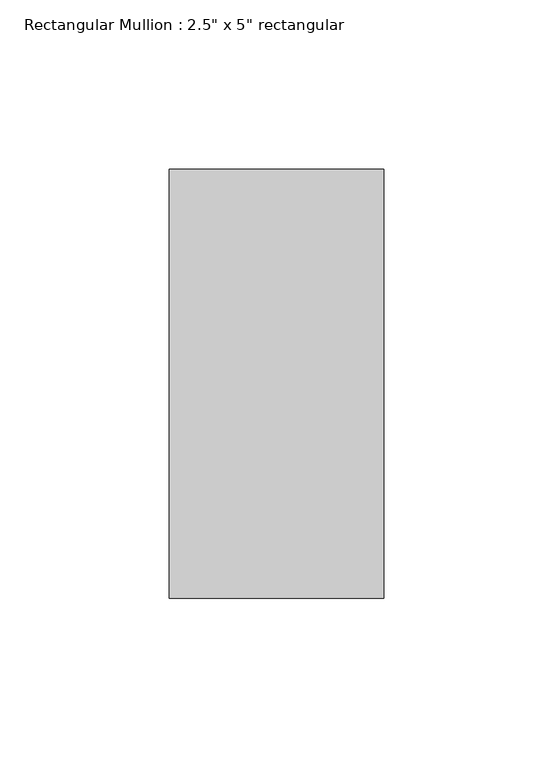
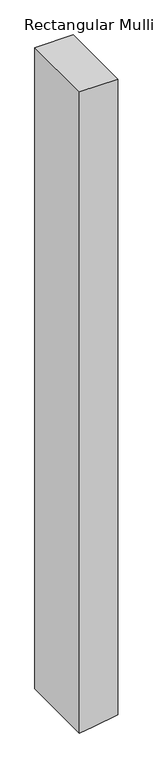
"""IFC4 building model written with IfcOpenShell, lengths in millimetres: member geometry."""

import ifcopenshell
import ifcopenshell.guid

model = None  # the IFC model being written
_history = None  # IfcOwnerHistory: only IFC2X3 demands one
_inside = {}  # id of a spatial element -> (the spatial element, [elements in it])
_under = {}  # id of a project, library or spatial element -> (it, [spatial elements below it])
_declared = {}  # id of a project -> (the project, [libraries it declares])
_typed = {}  # id of a type object -> (the type object, [elements of that type])
_made_of = {}  # id of a material, layer set ... -> (it, [elements and type objects made of it])


def new_model(schema):
    """Start an empty IFC model of exactly this schema.

    Asked for "IFC4X3", IfcOpenShell would pick the latest addendum, in which some entities
    have other attributes; the version numbers below select the first issue.
    IFC2X3 requires an IfcOwnerHistory on every rooted entity: one is made here for all.
    """
    global model, _history
    if schema == "IFC4X3":
        model = ifcopenshell.file(schema_version=(4, 3, 0, 0))
    else:
        model = ifcopenshell.file(schema=schema)
    _inside.clear()
    _under.clear()
    _declared.clear()
    _typed.clear()
    _made_of.clear()
    _history = None
    if model.schema == "IFC2X3":
        org = make("IfcOrganization", Name="unknown")
        user = make(
            "IfcPersonAndOrganization",
            ThePerson=make("IfcPerson", FamilyName="unknown"),
            TheOrganization=org,
        )
        app = make(
            "IfcApplication",
            ApplicationDeveloper=org,
            Version="unknown",
            ApplicationFullName="unknown",
            ApplicationIdentifier="unknown",
        )
        _history = make(
            "IfcOwnerHistory",
            OwningUser=user,
            OwningApplication=app,
            ChangeAction="ADDED",
            CreationDate=0,
        )
    return model


def make(cls, **values):
    """One entity of the class cls with the attributes given. An attribute that is None is left unset."""
    return model.create_entity(
        cls, **{name: value for name, value in values.items() if value is not None}
    )


def rooted(cls, **values):
    """An entity with a GlobalId (a new one), such as an element, a storey or a relation."""
    return make(cls, GlobalId=ifcopenshell.guid.new(), OwnerHistory=_history, **values)


def si_unit(unit_type, name, prefix=None):
    """IfcSIUnit, for example si_unit("LENGTHUNIT", "METRE", prefix="MILLI")."""
    return make("IfcSIUnit", UnitType=unit_type, Prefix=prefix, Name=name)


def assignment(units):
    """IfcUnitAssignment: the units of a project."""
    return None if units is None else make("IfcUnitAssignment", Units=units)


def point(xyz):
    """IfcCartesianPoint."""
    return None if xyz is None else make("IfcCartesianPoint", Coordinates=xyz)


def direction(xyz):
    """IfcDirection."""
    return None if xyz is None else make("IfcDirection", DirectionRatios=xyz)


def frame(location, z_axis=None, x_axis=None):
    """IfcAxis2Placement3D, a coordinate frame: its origin and axes. An axis left out is left unset."""
    return make(
        "IfcAxis2Placement3D",
        Location=point(location),
        Axis=direction(z_axis),
        RefDirection=direction(x_axis),
    )


def frame_2d(location, x_axis=None):
    """IfcAxis2Placement2D, a coordinate frame in the plane: its origin and x axis."""
    return make(
        "IfcAxis2Placement2D", Location=point(location), RefDirection=direction(x_axis)
    )


def origin():
    """The frame at (0, 0, 0) with its axes left unset."""
    return frame((0.0, 0.0, 0.0))


def place(relative_to, where):
    """IfcLocalPlacement: puts the frame where relative to a parent placement (None: the world)."""
    return make(
        "IfcLocalPlacement", PlacementRelTo=relative_to, RelativePlacement=where
    )


def context(
    kind, dimensions, precision=None, world=None, true_north=None, identifier=None
):
    """IfcGeometricRepresentationContext, for example the 3D "Model" context."""
    return make(
        "IfcGeometricRepresentationContext",
        ContextIdentifier=identifier,
        ContextType=kind,
        CoordinateSpaceDimension=dimensions,
        Precision=precision,
        WorldCoordinateSystem=world,
        TrueNorth=true_north,
    )


def project(units=None, contexts=None):
    """IfcProject with its units and contexts."""
    return rooted(
        "IfcProject",
        Name="project",
        RepresentationContexts=contexts,
        UnitsInContext=assignment(units),
    )


def spatial(cls, under=None, at=None, **own):
    """A site, building, storey or space (cls), placed at a placement, below another one or the project."""
    s = rooted(cls, ObjectPlacement=at, **own)
    if under is not None:
        _under.setdefault(under.id(), (under, []))[1].append(s)
    return s


def polyline(points):
    """IfcPolyline through the points."""
    return make("IfcPolyline", Points=[point(p) for p in points])


def circle_curve(where, radius):
    """IfcCircle in the frame where."""
    return make("IfcCircle", Position=where, Radius=radius)


def trimmed(basis, trim1, trim2, sense, master):
    """IfcTrimmedCurve: the piece of a basis curve between two trims."""
    return make(
        "IfcTrimmedCurve",
        BasisCurve=basis,
        Trim1=trim1,
        Trim2=trim2,
        SenseAgreement=sense,
        MasterRepresentation=master,
    )


def segment(curve, same_sense, transition):
    """IfcCompositeCurveSegment."""
    return make(
        "IfcCompositeCurveSegment",
        Transition=transition,
        SameSense=same_sense,
        ParentCurve=curve,
    )


def composite_curve(segments, self_intersect=None):
    """IfcCompositeCurve: segments joined end to end."""
    return make("IfcCompositeCurve", Segments=segments, SelfIntersect=self_intersect)


def outline(outer, holes=None, kind="AREA"):
    """IfcArbitraryClosedProfileDef: a profile drawn as a closed curve; with holes, ...WithVoids."""
    if holes is None:
        return make("IfcArbitraryClosedProfileDef", ProfileType=kind, OuterCurve=outer)
    return make(
        "IfcArbitraryProfileDefWithVoids",
        ProfileType=kind,
        OuterCurve=outer,
        InnerCurves=holes,
    )


def extrude(swept, where, along, depth):
    """IfcExtrudedAreaSolid: the profile swept, set in the frame where, extruded along a direction by depth."""
    return make(
        "IfcExtrudedAreaSolid",
        SweptArea=swept,
        Position=where,
        ExtrudedDirection=direction(along),
        Depth=depth,
    )


def shape(context_of_items, identifier, shape_type, items):
    """IfcShapeRepresentation: the items that make up one representation, for example the "Body"."""
    return make(
        "IfcShapeRepresentation",
        ContextOfItems=context_of_items,
        RepresentationIdentifier=identifier,
        RepresentationType=shape_type,
        Items=items,
    )


def source(mapping_origin, context_of_items, identifier, shape_type, items):
    """IfcRepresentationMap: a shape defined once, which mapped items show again and again."""
    return make(
        "IfcRepresentationMap",
        MappingOrigin=mapping_origin,
        MappedRepresentation=shape(context_of_items, identifier, shape_type, items),
    )


def transform(
    local_origin,
    x_axis=None,
    y_axis=None,
    z_axis=None,
    scale=None,
    scale2=None,
    scale3=None,
    uniform=True,
):
    """IfcCartesianTransformationOperator3D, or its non-uniform kind. x_axis, y_axis, z_axis: its Axis1, 2, 3."""
    if uniform:
        return make(
            "IfcCartesianTransformationOperator3D",
            Axis1=direction(x_axis),
            Axis2=direction(y_axis),
            LocalOrigin=point(local_origin),
            Scale=scale,
            Axis3=direction(z_axis),
        )
    return make(
        "IfcCartesianTransformationOperator3DnonUniform",
        Axis1=direction(x_axis),
        Axis2=direction(y_axis),
        LocalOrigin=point(local_origin),
        Scale=scale,
        Axis3=direction(z_axis),
        Scale2=scale2,
        Scale3=scale3,
    )


def mapped(mapping_source, mapping_target):
    """IfcMappedItem: shows the shape of a source again, moved by a transform."""
    return make(
        "IfcMappedItem", MappingSource=mapping_source, MappingTarget=mapping_target
    )


def made_of(thing, what):
    """Note that an element or type object is made of a material, layer set ...; save() writes the relation."""
    if what is not None:
        _made_of.setdefault(what.id(), (what, []))[1].append(thing)
    return thing


def element(
    cls,
    number,
    at=None,
    inside=None,
    cuts=None,
    type_object=None,
    material=None,
    context=None,
    identifier="Body",
    shape_type=None,
    held_by="IfcProductDefinitionShape",
    body=None,
    shapes=None,
    **own,
):
    """One element of the class cls, such as IfcWall. Its Tag is "e" and its number.

    at: its placement. inside: the storey or other place that contains it. cuts: it is an
    opening in that element (IfcRelVoidsElement). A single representation is given by context,
    identifier, shape_type and body (its items); several are given by shapes. held_by: the class
    of the entity that holds the representations. save() writes the other relations.
    """
    e = rooted(cls, Tag="e%d" % number, ObjectPlacement=at, **own)
    if body is not None:
        shapes = [shape(context, identifier, shape_type, body)]
    if shapes is not None:
        e.Representation = make(held_by, Representations=shapes)
    if inside is not None:
        _inside.setdefault(inside.id(), (inside, []))[1].append(e)
    if cuts is not None:
        rooted(
            "IfcRelVoidsElement", RelatingBuildingElement=cuts, RelatedOpeningElement=e
        )
    if type_object is not None:
        _typed.setdefault(type_object.id(), (type_object, []))[1].append(e)
    return made_of(e, material)


def aggregate(whole, parts):
    """IfcRelAggregates: a whole, such as a stair, and the parts it consists of."""
    return rooted("IfcRelAggregates", RelatingObject=whole, RelatedObjects=parts)


def save(model, path):
    """Write the relations noted so far, then the file.

    IfcRelAggregates (storeys below a building ...), IfcRelContainedInSpatialStructure (elements
    in a storey), IfcRelDefinesByType, IfcRelAssociatesMaterial and IfcRelDeclares: one each for
    every whole, place, type object, material and project.
    """
    for whole, parts in _under.values():
        aggregate(whole, parts)
    for where, things in _inside.values():
        rooted(
            "IfcRelContainedInSpatialStructure",
            RelatedElements=things,
            RelatingStructure=where,
        )
    for kind, things in _typed.values():
        rooted("IfcRelDefinesByType", RelatedObjects=things, RelatingType=kind)
    for what, things in _made_of.values():
        rooted("IfcRelAssociatesMaterial", RelatedObjects=things, RelatingMaterial=what)
    for by, libraries in _declared.values():
        rooted("IfcRelDeclares", RelatingContext=by, RelatedDefinitions=libraries)
    model.write(path)


def member_a6249bd8(model_context):
    return source(origin(), model_context, "Body", "SweptSolid", [
        extrude(outline(composite_curve([segment(polyline([(0.0, 31.75), (0.0, -31.75), (-1118.9156232, -31.75)]), True, "CONTINUOUS"), segment(trimmed(circle_curve(frame_2d((2743.2, -566.0571428)), 3898.9), [point((-1118.9156232, -31.75))], [point((-1115.7102112, -9.0713344))], False, "CARTESIAN"), True, "CONTINUOUS"), segment(trimmed(circle_curve(frame_2d((2743.2, -566.0571428)), 3898.9), [point((-1115.7102112, -9.0713344))], [point((-1109.5974032, 31.75))], False, "CARTESIAN"), True, "CONTINUOUS"), segment(polyline([(-1109.5974032, 31.75), (0.0, 31.75)]), True, "CONTINUOUS")], self_intersect=False)), frame((0.0, -63.5, 0.0), z_axis=(0.0, 1.0, 0.0), x_axis=(0.0, 0.0, 1.0)), (0.0, 0.0, 1.0), 127.0),
    ])


if __name__ == "__main__":
    model = new_model("IFC4")
    model_context = context("Model", 3, world=origin())
    ifc_project = project(units=[si_unit("LENGTHUNIT", "METRE", prefix="MILLI")], contexts=[model_context])
    site = spatial("IfcSite", under=ifc_project)
    building = spatial("IfcBuilding", under=site)
    placement = place(None, origin())
    member_shape = member_a6249bd8(model_context)
    element("IfcMember", 1, ObjectType="Rectangular Mullion : 2.5\" x 5\" rectangular", at=placement, inside=building, context=model_context, shape_type="MappedRepresentation", body=[
        mapped(member_shape, transform((0.0, 0.0, 0.0), x_axis=(1.0, 0.0, 0.0), y_axis=(0.0, 1.0, 0.0), z_axis=(0.0, 0.0, 1.0))),
    ])
    save(model, "model.ifc")
